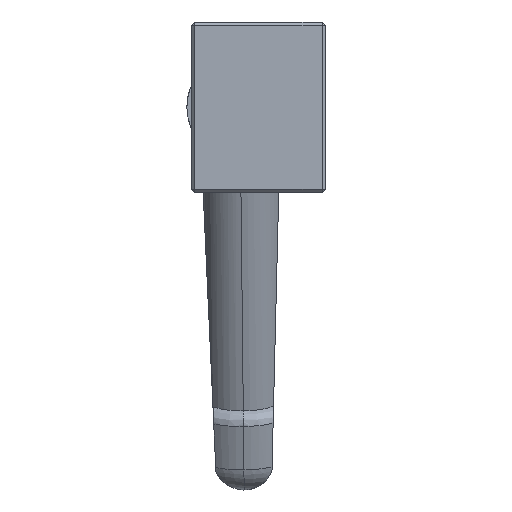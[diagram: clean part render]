
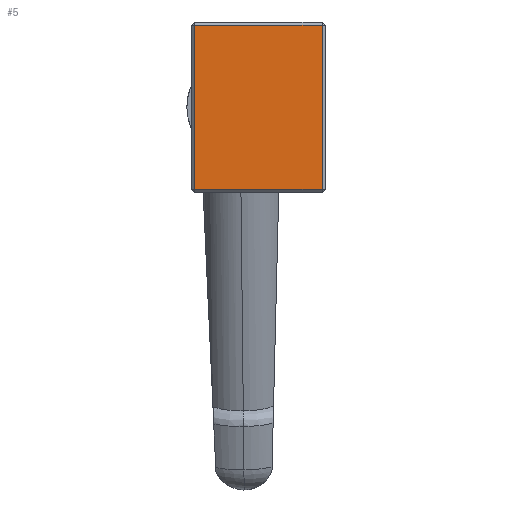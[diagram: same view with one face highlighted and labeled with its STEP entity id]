
A CAD part, left-side view. The second image highlights one B-rep face of the part: STEP entity #5.
In plain terms, the highlighted planar face has unit normal (-1, 0, 0).
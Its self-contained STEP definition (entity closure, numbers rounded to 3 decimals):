
#5 = ADVANCED_FACE ( 'NONE', ( #875 ), #2538, .F. ) ;
#38 = AXIS2_PLACEMENT_3D ( 'NONE', #1579, #4322, #2628 ) ;
#118 = VECTOR ( 'NONE', #3199, 1000. ) ;
#124 = EDGE_CURVE ( 'NONE', #3850, #2802, #4013, .T. ) ;
#133 = ORIENTED_EDGE ( 'NONE', *, *, #2176, .T. ) ;
#293 = CARTESIAN_POINT ( 'NONE',  ( -30., 0.5, 13.5 ) ) ;
#416 = ORIENTED_EDGE ( 'NONE', *, *, #3492, .T. ) ;
#875 = FACE_OUTER_BOUND ( 'NONE', #2973, .T. ) ;
#897 = VECTOR ( 'NONE', #4265, 1000. ) ;
#946 = DIRECTION ( 'NONE',  ( 0., 1., 0. ) ) ;
#1579 = CARTESIAN_POINT ( 'NONE',  ( -30., 22., -14. ) ) ;
#1614 = VERTEX_POINT ( 'NONE', #2257 ) ;
#1717 = CARTESIAN_POINT ( 'NONE',  ( -30., 0.5, -13.5 ) ) ;
#1906 = CARTESIAN_POINT ( 'NONE',  ( -30., 0.5, -14. ) ) ;
#2176 = EDGE_CURVE ( 'NONE', #1614, #2861, #2904, .T. ) ;
#2208 = VECTOR ( 'NONE', #946, 1000. ) ;
#2257 = CARTESIAN_POINT ( 'NONE',  ( -30., 21.5, -13.5 ) ) ;
#2302 = VECTOR ( 'NONE', #3566, 1000. ) ;
#2308 = CARTESIAN_POINT ( 'NONE',  ( -30., 22., 13.5 ) ) ;
#2538 = PLANE ( 'NONE',  #38 ) ;
#2594 = LINE ( 'NONE', #1906, #2302 ) ;
#2628 = DIRECTION ( 'NONE',  ( 0., 0., -1. ) ) ;
#2745 = EDGE_CURVE ( 'NONE', #2861, #3850, #2594, .T. ) ;
#2802 = VERTEX_POINT ( 'NONE', #2924 ) ;
#2838 = ORIENTED_EDGE ( 'NONE', *, *, #124, .T. ) ;
#2861 = VERTEX_POINT ( 'NONE', #1717 ) ;
#2904 = LINE ( 'NONE', #2929, #897 ) ;
#2924 = CARTESIAN_POINT ( 'NONE',  ( -30., 21.5, 13.5 ) ) ;
#2929 = CARTESIAN_POINT ( 'NONE',  ( -30., 22., -13.5 ) ) ;
#2930 = CARTESIAN_POINT ( 'NONE',  ( -30., 21.5, -14. ) ) ;
#2973 = EDGE_LOOP ( 'NONE', ( #416, #133, #3415, #2838 ) ) ;
#3199 = DIRECTION ( 'NONE',  ( 0., 0., -1. ) ) ;
#3415 = ORIENTED_EDGE ( 'NONE', *, *, #2745, .T. ) ;
#3492 = EDGE_CURVE ( 'NONE', #2802, #1614, #3907, .T. ) ;
#3566 = DIRECTION ( 'NONE',  ( 0., 0., 1. ) ) ;
#3850 = VERTEX_POINT ( 'NONE', #293 ) ;
#3907 = LINE ( 'NONE', #2930, #118 ) ;
#4013 = LINE ( 'NONE', #2308, #2208 ) ;
#4265 = DIRECTION ( 'NONE',  ( 0., -1., 0. ) ) ;
#4322 = DIRECTION ( 'NONE',  ( 1., 0., 0. ) ) ;
